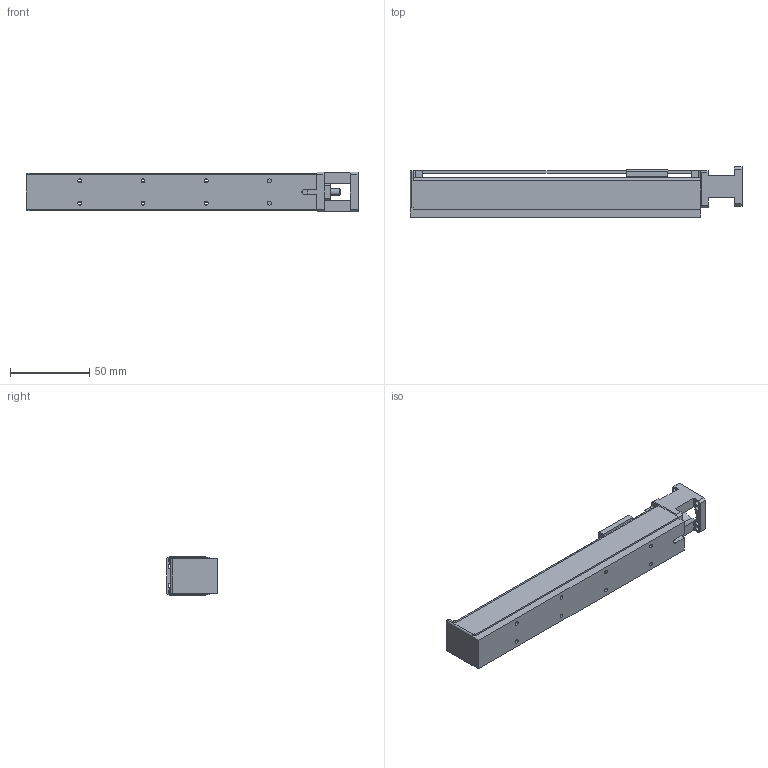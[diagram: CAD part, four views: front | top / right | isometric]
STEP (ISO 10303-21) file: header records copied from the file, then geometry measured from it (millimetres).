
FILE_DESCRIPTION (( 'STEP AP203' ), '1' );
FILE_NAME ('FAS-120.STEP', '2015-08-25T04:52:52', ( '' ), ( '' ), 'SwSTEP 2.0', 'SolidWorks 2015', '' );
FILE_SCHEMA (( 'CONFIG_CONTROL_DESIGN' ));
Length unit declared in the file: millimetre
Products named in the file (1): FAS-120
Bounding box: 210 x 32 x 25 mm (x, y, z)
Volume: 57025.7 mm3; surface area: 41099.9 mm2
Topology: 2 solids, 2 shells, 154 faces, 441 edges, 286 vertices
Faces by surface type: plane 90, cylinder 60, cone 2, sphere 2
Entity records: 5180 total; most frequent: CARTESIAN_POINT 880, ORIENTED_EDGE 878, DIRECTION 875, EDGE_CURVE 439, VECTOR 313, LINE 313, VERTEX_POINT 286, AXIS2_PLACEMENT_3D 281
